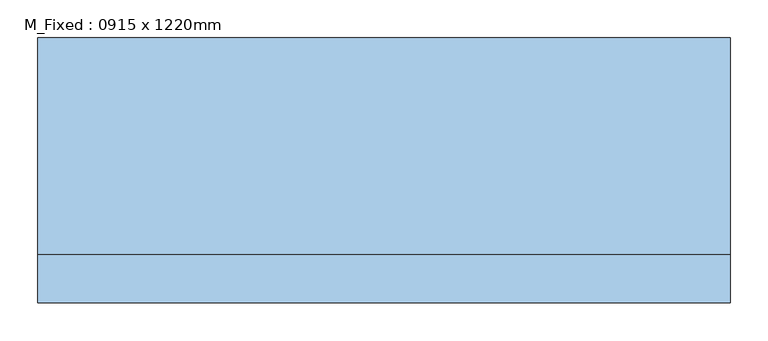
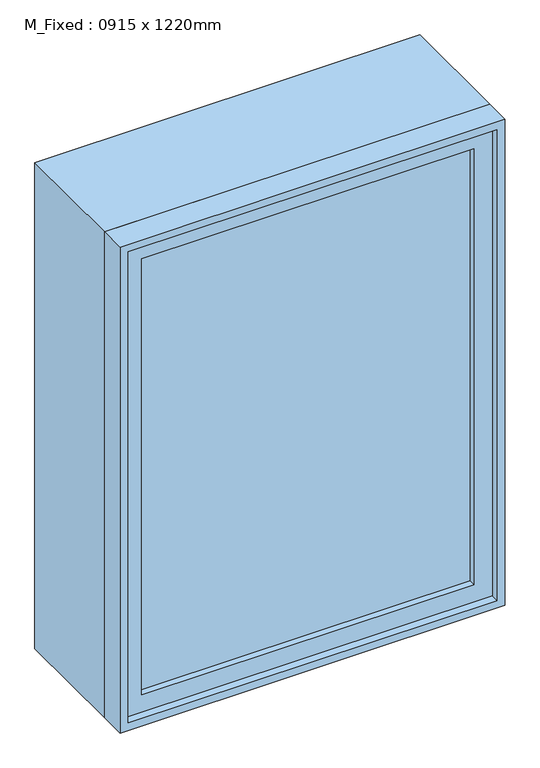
"""IFC4 building model written with IfcOpenShell, lengths in millimetres: window geometry, M_Fixed : 0915 x 1220mm."""

from ifc_helpers import new_model, si_unit, frame, origin, place, context, project, spatial, polyline, outline, extrude, source, transform, mapped, element, save


def m_fixed_0915_x_1220mm_2a2509e7(model_context):
    return source(origin(), model_context, "Body", "SweptSolid", [
        extrude(outline(polyline([(-394.5, -153.0), (-394.5, -141.0), (394.5, -141.0), (394.5, -153.0), (-394.5, -153.0)])), frame((0.0, 0.0, 978.0), z_axis=(0.0, 0.0, 1.0), x_axis=(1.0, 0.0, 0.0)), (0.0, 0.0, 1.0), 1094.0),
        extrude(outline(polyline([(2116.0, -438.5), (934.0, -438.5), (934.0, 438.5), (2116.0, 438.5), (2116.0, -438.5)]), holes=[polyline([(2072.0, -394.5), (2072.0, 394.5), (978.0, 394.5), (978.0, -394.5), (2072.0, -394.5)])]), frame((0.0, -169.0, 0.0), z_axis=(0.0, 1.0, 0.0), x_axis=(0.0, 0.0, 1.0)), (0.0, 0.0, 1.0), 44.0),
        extrude(outline(polyline([(2135.0, -457.5), (915.0, -457.5), (915.0, 457.5), (2135.0, 457.5), (2135.0, -457.5)]), holes=[polyline([(2116.0, -438.5), (2116.0, 438.5), (934.0, 438.5), (934.0, -438.5), (2116.0, -438.5)])]), frame((0.0, -188.0, 0.0), z_axis=(0.0, 1.0, 0.0), x_axis=(0.0, 0.0, 1.0)), (0.0, 0.0, 1.0), 63.0),
        extrude(outline(polyline([(2135.0, -457.5), (915.0, -457.5), (915.0, 457.5), (2135.0, 457.5), (2135.0, -457.5)]), holes=[polyline([(2103.0, -425.5), (2103.0, 425.5), (947.0, 425.5), (947.0, -425.5), (2103.0, -425.5)])]), frame((0.0, -125.0, 0.0), z_axis=(0.0, 1.0, 0.0), x_axis=(0.0, 0.0, 1.0)), (0.0, 0.0, 1.0), 287.0),
    ])


if __name__ == "__main__":
    model = new_model("IFC4")
    model_context = context("Model", 3, world=origin())
    ifc_project = project(units=[si_unit("LENGTHUNIT", "METRE", prefix="MILLI")], contexts=[model_context])
    site = spatial("IfcSite", under=ifc_project)
    building = spatial("IfcBuilding", under=site)
    placement = place(None, origin())
    m_fixed_0915_x_1220mm_shape = m_fixed_0915_x_1220mm_2a2509e7(model_context)
    element("IfcWindow", 1, ObjectType="M_Fixed : 0915 x 1220mm", at=placement, inside=building, context=model_context, shape_type="MappedRepresentation", body=[
        mapped(m_fixed_0915_x_1220mm_shape, transform((0.0, 0.0, 0.0), x_axis=(1.0, 0.0, 0.0), y_axis=(0.0, 1.0, 0.0), z_axis=(0.0, 0.0, 1.0))),
    ])
    save(model, "model.ifc")
